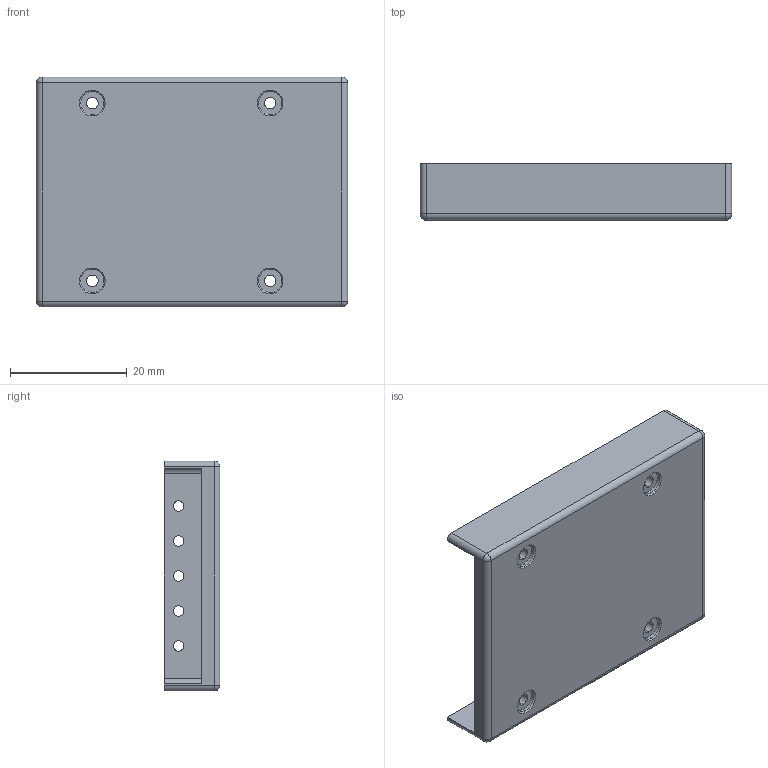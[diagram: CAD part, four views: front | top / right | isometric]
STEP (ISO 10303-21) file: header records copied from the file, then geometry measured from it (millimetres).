
FILE_DESCRIPTION (( 'STEP AP214' ), '1' );
FILE_NAME ('H743狟褲.STEP', '2024-05-29T12:07:22', ( '' ), ( '' ), 'SwSTEP 2.0', 'SolidWorks 2022', '' );
FILE_SCHEMA (( 'AUTOMOTIVE_DESIGN' ));
Length unit declared in the file: millimetre
Products named in the file (1): H743下壳
Bounding box: 53.4 x 9.6 x 39.4 mm (x, y, z)
Volume: 3939.6 mm3; surface area: 6810.9 mm2
Topology: 1 solids, 1 shells, 112 faces, 292 edges, 182 vertices
Faces by surface type: cylinder 56, plane 34, cone 18, sphere 4
Entity records: 3492 total; most frequent: DIRECTION 644, CARTESIAN_POINT 583, ORIENTED_EDGE 576, EDGE_CURVE 288, AXIS2_PLACEMENT_3D 243, VERTEX_POINT 182, VECTOR 158, LINE 158
